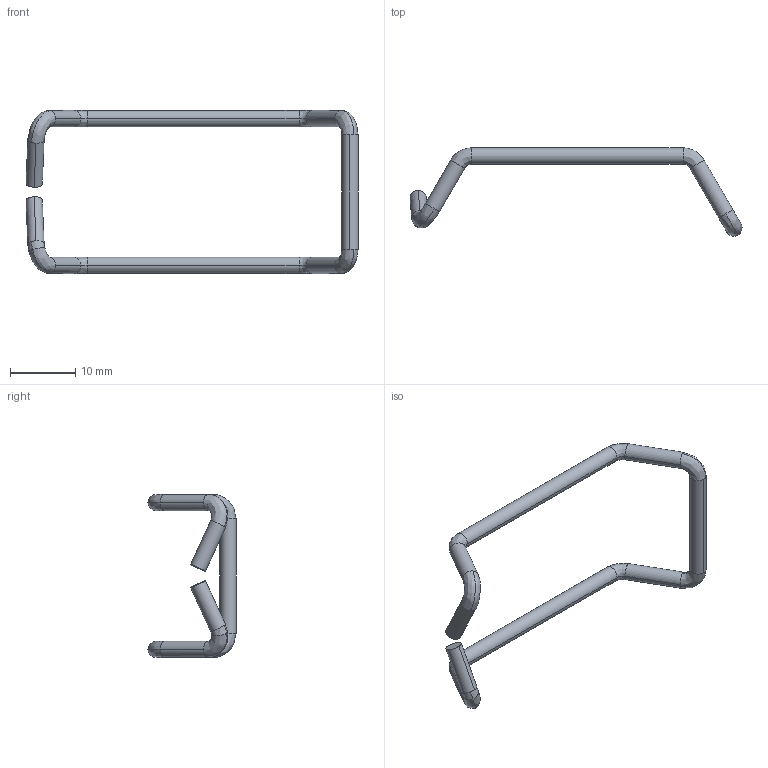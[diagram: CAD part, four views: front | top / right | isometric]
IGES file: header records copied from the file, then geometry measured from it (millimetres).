
Start section: SolidWorks IGES FILE using analytic representation for surfaces
Global section: file name: C:\WINNT\Profiles\cbrechard\Bureau\GE 1061\1060.200.00.IGS; native system: SolidWorks 2001Plus by SolidWorks Corporation; preprocessor: Version 5.3; author: CBRECHARD; date: 050124.102326; units: millimetre
Bounding box: 50.91 x 13.5 x 25 mm (x, y, z)
Surface area: 1250.7 mm2 (no closed solid volume)
Topology: 0 solids, 0 shells, 38 faces, 240 edges, 240 vertices
Faces by surface type: bspline 20, revolution 18
